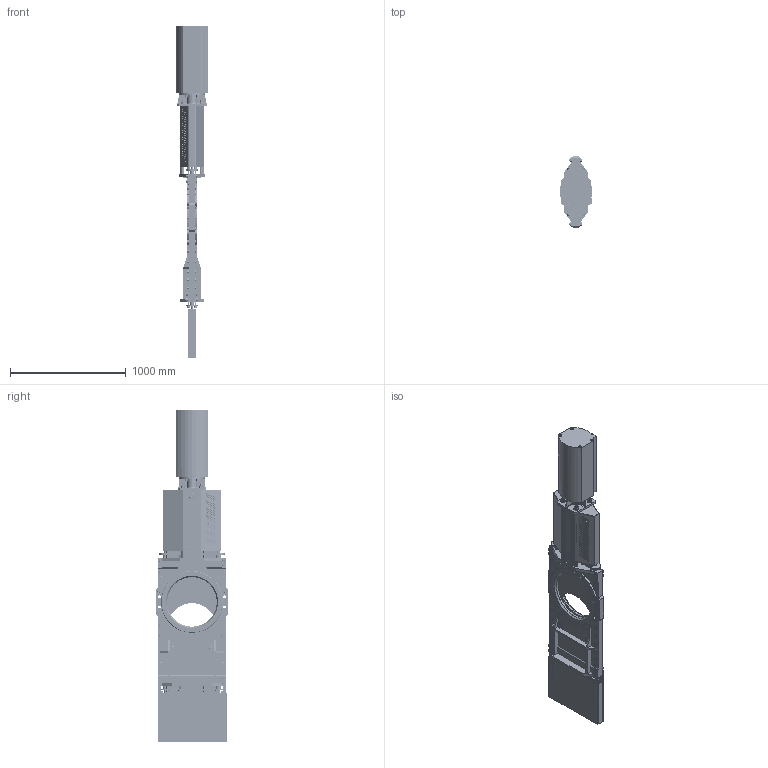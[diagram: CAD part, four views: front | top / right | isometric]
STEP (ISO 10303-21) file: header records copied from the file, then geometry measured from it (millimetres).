
FILE_DESCRIPTION(('STEP AP203'),'1');
FILE_NAME('F:/Alexander/CYLSAM/2D-3D/HG/450/HG-DN450-EC250.stp','2012-11-29T14:58:31',(' '),(' '),'Spatial InterOp 3D',' ',' ');
FILE_SCHEMA(('CONFIG_CONTROL_DESIGN'));
Length unit declared in the file: millimetre
Products named in the file (9): 1; 2; 3; 4; 5; 6; 7; 8; 9
Bounding box: 280 x 625 x 2867 mm (x, y, z)
Volume: 62599542.5 mm3; surface area: 9425322.5 mm2
Topology: 9 solids, 107 shells, 4603 faces, 11110 edges, 7045 vertices
Faces by surface type: plane 1847, cylinder 1550, cone 1124, torus 78, bspline 4
Entity records: 137803 total; most frequent: CARTESIAN_POINT 30159, DIRECTION 23177, ORIENTED_EDGE 22172, EDGE_CURVE 11086, AXIS2_PLACEMENT_3D 9181, VERTEX_POINT 7045, EDGE_LOOP 5459, LINE 4815
